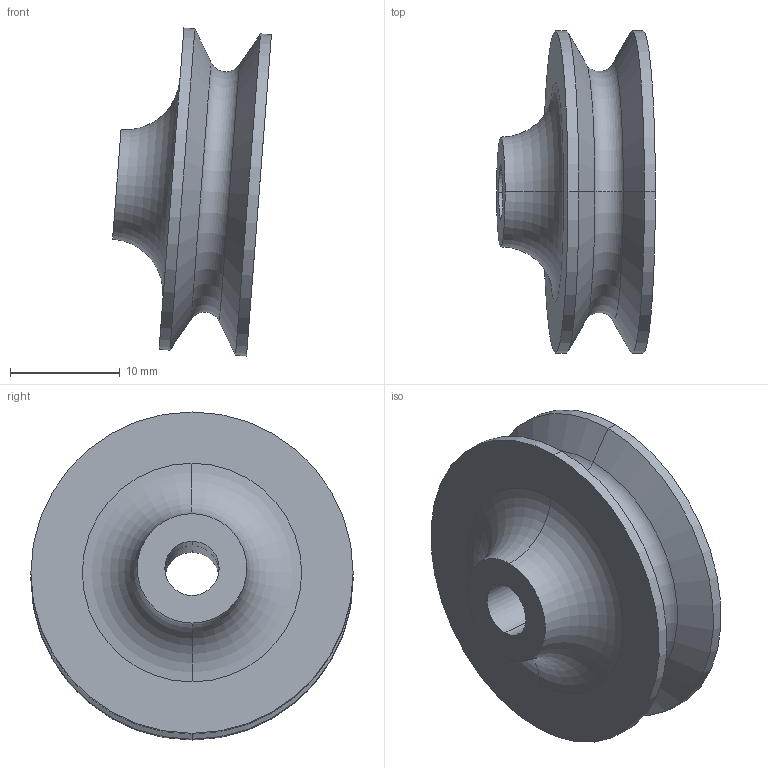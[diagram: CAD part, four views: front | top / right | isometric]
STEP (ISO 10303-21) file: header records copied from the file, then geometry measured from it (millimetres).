
FILE_DESCRIPTION((''),'2;1');
FILE_NAME('0000237052_PRT','2025-11-12T18:32:55',('Wyndorps'),(''),'CREO PARAMETRIC BY PTC INC, 2025010','CREO PARAMETRIC BY PTC INC, 2025010','');
FILE_SCHEMA(('CONFIG_CONTROL_DESIGN'));
Length unit declared in the file: millimetre
Products named in the file (1): 0000237052_PRT
Bounding box: 14.48 x 29.39 x 29.92 mm (x, y, z)
Volume: 4609.7 mm3; surface area: 2593.7 mm2
Topology: 1 solids, 1 shells, 19 faces, 38 edges, 22 vertices
Faces by surface type: cylinder 8, cone 4, torus 4, plane 3
Entity records: 540 total; most frequent: DIRECTION 102, CARTESIAN_POINT 79, ORIENTED_EDGE 76, AXIS2_PLACEMENT_3D 45, EDGE_CURVE 38, CIRCLE 26, VERTEX_POINT 22, EDGE_LOOP 22
